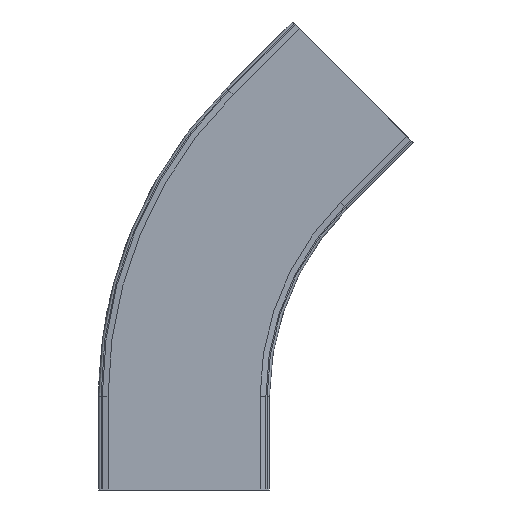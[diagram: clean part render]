
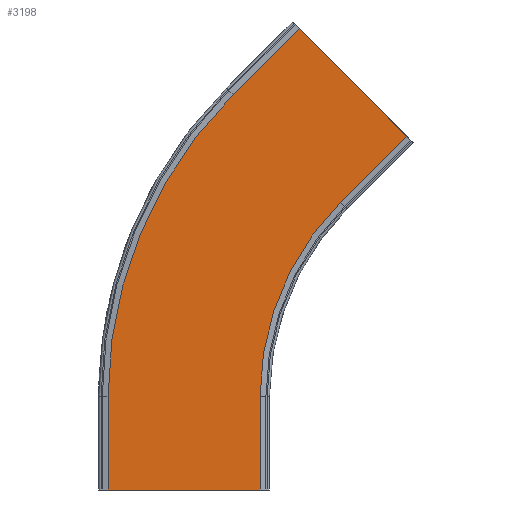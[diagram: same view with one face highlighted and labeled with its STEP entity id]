
A CAD part, front view. The second image highlights one B-rep face of the part: STEP entity #3198.
In plain terms, the highlighted planar face has unit normal (0, -1, 0).
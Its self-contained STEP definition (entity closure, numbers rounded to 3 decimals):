
#117=CIRCLE('',#3396,235.);
#118=CIRCLE('',#3398,365.);
#260=FACE_OUTER_BOUND('',#431,.T.);
#431=EDGE_LOOP('',(#2145,#2146,#2147,#2148,#2149,#2150,#2151,#2152));
#605=LINE('',#4482,#963);
#609=LINE('',#4489,#967);
#620=LINE('',#4522,#978);
#621=LINE('',#4524,#979);
#622=LINE('',#4525,#980);
#623=LINE('',#4526,#981);
#963=VECTOR('',#3636,10.);
#967=VECTOR('',#3642,10.);
#978=VECTOR('',#3673,10.);
#979=VECTOR('',#3674,10.);
#980=VECTOR('',#3675,10.);
#981=VECTOR('',#3676,10.);
#1321=VERTEX_POINT('',#4479);
#1322=VERTEX_POINT('',#4481);
#1324=VERTEX_POINT('',#4487);
#1333=VERTEX_POINT('',#4513);
#1334=VERTEX_POINT('',#4515);
#1335=VERTEX_POINT('',#4519);
#1336=VERTEX_POINT('',#4521);
#1337=VERTEX_POINT('',#4523);
#1637=EDGE_CURVE('',#1322,#1321,#605,.T.);
#1641=EDGE_CURVE('',#1324,#1321,#609,.T.);
#1654=EDGE_CURVE('',#1334,#1333,#117,.T.);
#1656=EDGE_CURVE('',#1335,#1324,#118,.T.);
#1657=EDGE_CURVE('',#1336,#1335,#620,.T.);
#1658=EDGE_CURVE('',#1336,#1337,#621,.T.);
#1659=EDGE_CURVE('',#1337,#1334,#622,.T.);
#1660=EDGE_CURVE('',#1333,#1322,#623,.T.);
#2145=ORIENTED_EDGE('',*,*,#1637,.T.);
#2146=ORIENTED_EDGE('',*,*,#1641,.F.);
#2147=ORIENTED_EDGE('',*,*,#1656,.F.);
#2148=ORIENTED_EDGE('',*,*,#1657,.F.);
#2149=ORIENTED_EDGE('',*,*,#1658,.T.);
#2150=ORIENTED_EDGE('',*,*,#1659,.T.);
#2151=ORIENTED_EDGE('',*,*,#1654,.T.);
#2152=ORIENTED_EDGE('',*,*,#1660,.T.);
#3083=PLANE('',#3397);
#3198=ADVANCED_FACE('',(#260),#3083,.T.);
#3396=AXIS2_PLACEMENT_3D('',#4516,#3666,#3667);
#3397=AXIS2_PLACEMENT_3D('',#4518,#3669,#3670);
#3398=AXIS2_PLACEMENT_3D('',#4520,#3671,#3672);
#3636=DIRECTION('',(-0.707,0.,0.707));
#3642=DIRECTION('',(0.707,0.,0.707));
#3666=DIRECTION('center_axis',(0.,1.,0.));
#3667=DIRECTION('ref_axis',(-1.,0.,0.));
#3669=DIRECTION('center_axis',(0.,-1.,0.));
#3670=DIRECTION('ref_axis',(-0.707,0.,-0.707));
#3671=DIRECTION('center_axis',(0.,1.,0.));
#3672=DIRECTION('ref_axis',(-1.,0.,0.));
#3673=DIRECTION('',(0.,0.,1.));
#3674=DIRECTION('',(1.,0.,0.));
#3675=DIRECTION('',(0.,0.,1.));
#3676=DIRECTION('',(0.707,0.,0.707));
#4479=CARTESIAN_POINT('',(137.475,-72.,394.663));
#4481=CARTESIAN_POINT('',(229.399,-72.,302.739));
#4482=CARTESIAN_POINT('',(205.357,-72.,326.78));
#4487=CARTESIAN_POINT('',(80.907,-72.,338.094));
#4489=CARTESIAN_POINT('',(-142.27,-72.,114.917));
#4513=CARTESIAN_POINT('',(172.831,-72.,246.17));
#4515=CARTESIAN_POINT('',(104.001,-72.,80.));
#4516=CARTESIAN_POINT('Origin',(339.001,-72.,80.));
#4518=CARTESIAN_POINT('Origin',(-50.346,-72.,22.993));
#4519=CARTESIAN_POINT('',(-25.999,-72.,80.));
#4520=CARTESIAN_POINT('Origin',(339.001,-72.,80.));
#4521=CARTESIAN_POINT('',(-25.999,-72.,0.));
#4522=CARTESIAN_POINT('',(-25.999,-72.,0.));
#4523=CARTESIAN_POINT('',(104.001,-72.,0.));
#4524=CARTESIAN_POINT('',(-25.999,-72.,0.));
#4525=CARTESIAN_POINT('',(104.001,-72.,0.));
#4526=CARTESIAN_POINT('',(-50.346,-72.,22.993));
